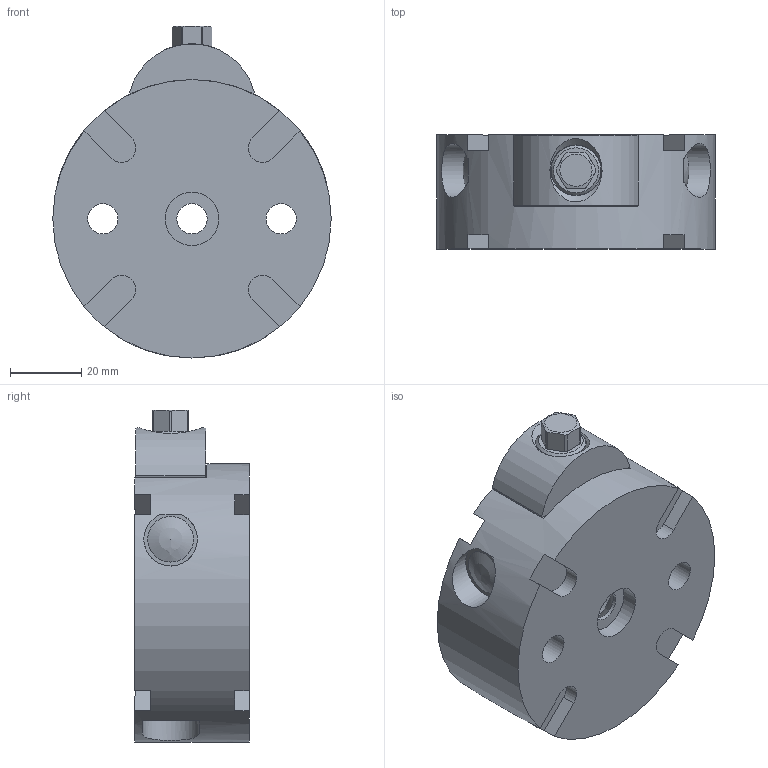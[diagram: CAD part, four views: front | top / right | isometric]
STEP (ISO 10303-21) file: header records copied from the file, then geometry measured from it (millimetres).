
FILE_DESCRIPTION( ( 'STEP AP214' ), '1' );
FILE_NAME( 'p:/temp/worker_97/temp/exporttempdir_4428_478_48Vrs/format_2/AMF559680.stp', '2019-11-04T08:53:39', ( '' ), ( '' ), ' ', 'PARTsolutions', ' ' );
FILE_SCHEMA( ( 'AUTOMOTIVE_DESIGN { 1 0 10303 214 1 1 1 1 }' ) );
Length unit declared in the file: millimetre
Products named in the file (1): _AMF559680
Bounding box: 78 x 32 x 93 mm (x, y, z)
Volume: 137448.2 mm3; surface area: 23775.7 mm2
Topology: 1 solids, 1 shells, 108 faces, 278 edges, 183 vertices
Faces by surface type: plane 58, cylinder 31, cone 17, sphere 2
Full cylindrical faces by diameter (mm): 8.5 x3, 12 x2, 14 x1, 14.2 x1, 15 x1, 22 x1, 78 x1
Entity records: 4384 total; most frequent: CARTESIAN_POINT 926, DIRECTION 552, ORIENTED_EDGE 500, EDGE_CURVE 250, AXIS2_PLACEMENT_3D 220, VERTEX_POINT 178, EDGE_LOOP 146, FACE_OUTER_BOUND 118
